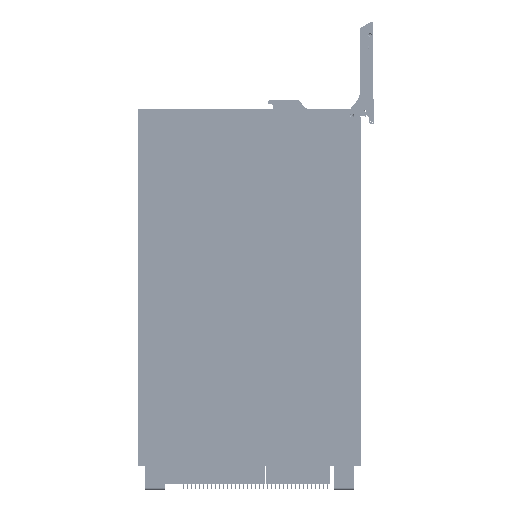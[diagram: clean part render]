
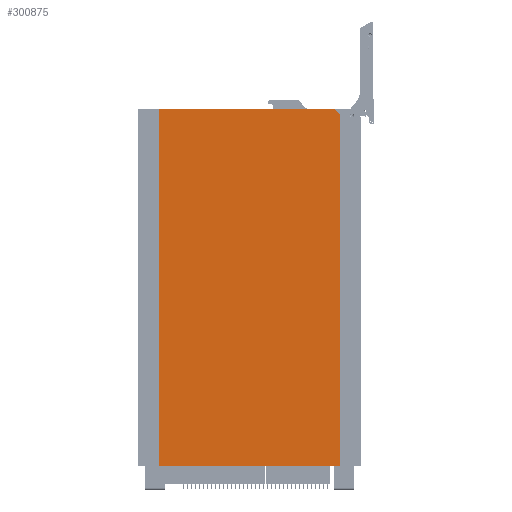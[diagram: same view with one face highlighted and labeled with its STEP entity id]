
A CAD part, front view. The second image highlights one B-rep face of the part: STEP entity #300875.
In plain terms, the highlighted planar face has unit normal (0, -1, 0).
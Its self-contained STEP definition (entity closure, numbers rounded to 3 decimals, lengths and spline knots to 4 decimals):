
#13432 = AXIS2_PLACEMENT_3D ( 'NONE', #385910, #503872, #159804 ) ;
#20445 = CARTESIAN_POINT ( 'NONE',  ( 1.4985, -0.755, 0. ) ) ;
#22239 = CARTESIAN_POINT ( 'NONE',  ( -1.5985, -0.755, -6.2992 ) ) ;
#31798 = ORIENTED_EDGE ( 'NONE', *, *, #648357, .F. ) ;
#34765 = LINE ( 'NONE', #416071, #322248 ) ;
#37926 = VERTEX_POINT ( 'NONE', #165835 ) ;
#70838 = ORIENTED_EDGE ( 'NONE', *, *, #558281, .F. ) ;
#76725 = FACE_OUTER_BOUND ( 'NONE', #389640, .T. ) ;
#79957 = DIRECTION ( 'NONE',  ( 0., 0., 1. ) ) ;
#112086 = VECTOR ( 'NONE', #79957, 39.3701 ) ;
#146962 = EDGE_CURVE ( 'NONE', #357918, #37926, #34765, .T. ) ;
#159804 = DIRECTION ( 'NONE',  ( -1., 0., 0. ) ) ;
#165835 = CARTESIAN_POINT ( 'NONE',  ( 1.5985, -0.755, -0.1 ) ) ;
#177834 = VERTEX_POINT ( 'NONE', #730445 ) ;
#187532 = DIRECTION ( 'NONE',  ( 0., 0., 1. ) ) ;
#227027 = ORIENTED_EDGE ( 'NONE', *, *, #262870, .T. ) ;
#228821 = CARTESIAN_POINT ( 'NONE',  ( 0., -0.755, -6.2992 ) ) ;
#235908 = CARTESIAN_POINT ( 'NONE',  ( 0., -0.755, 0. ) ) ;
#245706 = VECTOR ( 'NONE', #341845, 39.3701 ) ;
#256307 = EDGE_CURVE ( 'NONE', #308920, #433890, #339144, .T. ) ;
#262870 = EDGE_CURVE ( 'NONE', #37926, #308920, #617473, .T. ) ;
#264791 = LINE ( 'NONE', #22239, #112086 ) ;
#269183 = CARTESIAN_POINT ( 'NONE',  ( 1.5985, -0.755, -6.2992 ) ) ;
#275922 = VECTOR ( 'NONE', #545835, 39.3701 ) ;
#291108 = DIRECTION ( 'NONE',  ( -1., 0., 0. ) ) ;
#300875 = ADVANCED_FACE ( 'NONE', ( #76725 ), #446133, .F. ) ;
#308920 = VERTEX_POINT ( 'NONE', #20445 ) ;
#321121 = VECTOR ( 'NONE', #291108, 39.3701 ) ;
#322248 = VECTOR ( 'NONE', #187532, 39.3701 ) ;
#339144 = LINE ( 'NONE', #235908, #321121 ) ;
#341845 = DIRECTION ( 'NONE',  ( -1., 0., 0. ) ) ;
#349215 = ORIENTED_EDGE ( 'NONE', *, *, #146962, .T. ) ;
#357918 = VERTEX_POINT ( 'NONE', #269183 ) ;
#385910 = CARTESIAN_POINT ( 'NONE',  ( 0., -0.755, -6.2992 ) ) ;
#389640 = EDGE_LOOP ( 'NONE', ( #349215, #227027, #744701, #70838, #31798 ) ) ;
#398495 = LINE ( 'NONE', #228821, #245706 ) ;
#416071 = CARTESIAN_POINT ( 'NONE',  ( 1.5985, -0.755, -6.2992 ) ) ;
#433890 = VERTEX_POINT ( 'NONE', #708337 ) ;
#446133 = PLANE ( 'NONE',  #13432 ) ;
#503872 = DIRECTION ( 'NONE',  ( 0., 1., 0. ) ) ;
#545835 = DIRECTION ( 'NONE',  ( -0.707, 0., 0.707 ) ) ;
#558281 = EDGE_CURVE ( 'NONE', #177834, #433890, #264791, .T. ) ;
#617473 = LINE ( 'NONE', #661481, #275922 ) ;
#648357 = EDGE_CURVE ( 'NONE', #357918, #177834, #398495, .T. ) ;
#661481 = CARTESIAN_POINT ( 'NONE',  ( 1.5985, -0.755, -0.1 ) ) ;
#708337 = CARTESIAN_POINT ( 'NONE',  ( -1.5985, -0.755, 0. ) ) ;
#730445 = CARTESIAN_POINT ( 'NONE',  ( -1.5985, -0.755, -6.2992 ) ) ;
#744701 = ORIENTED_EDGE ( 'NONE', *, *, #256307, .T. ) ;
